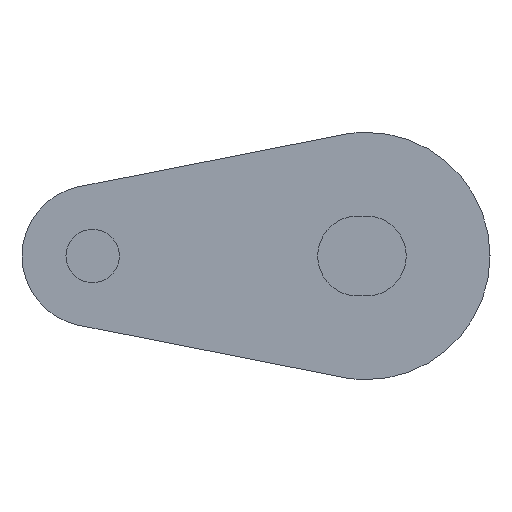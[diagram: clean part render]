
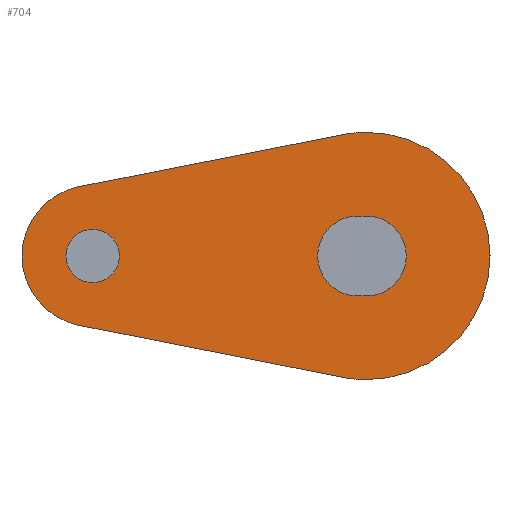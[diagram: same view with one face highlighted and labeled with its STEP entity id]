
A CAD part, left-side view. The second image highlights one B-rep face of the part: STEP entity #704.
In plain terms, the highlighted planar face has unit normal (-1, 0, 0).
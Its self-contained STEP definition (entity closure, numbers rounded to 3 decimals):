
#18 = PLANE ( 'NONE',  #150 ) ;
#21 = CARTESIAN_POINT ( 'NONE',  ( -154.5, 15.5, 0. ) ) ;
#31 = DIRECTION ( 'NONE',  ( -1., 0., 0. ) ) ;
#32 = DIRECTION ( 'NONE',  ( 0., 0., -1. ) ) ;
#44 = AXIS2_PLACEMENT_3D ( 'NONE', #236, #260, #259 ) ;
#52 = AXIS2_PLACEMENT_3D ( 'NONE', #567, #287, #289 ) ;
#66 = EDGE_CURVE ( 'NONE', #944, #945, #398, .T. ) ;
#71 = EDGE_CURVE ( 'NONE', #993, #982, #396, .T. ) ;
#105 = AXIS2_PLACEMENT_3D ( 'NONE', #288, #791, #790 ) ;
#107 = AXIS2_PLACEMENT_3D ( 'NONE', #851, #800, #801 ) ;
#116 = AXIS2_PLACEMENT_3D ( 'NONE', #1012, #1015, #995 ) ;
#124 = EDGE_CURVE ( 'NONE', #974, #977, #370, .T. ) ;
#128 = EDGE_CURVE ( 'NONE', #941, #974, #367, .T. ) ;
#130 = EDGE_CURVE ( 'NONE', #942, #943, #361, .T. ) ;
#139 = EDGE_CURVE ( 'NONE', #943, #944, #352, .T. ) ;
#144 = EDGE_CURVE ( 'NONE', #945, #942, #348, .T. ) ;
#146 = EDGE_CURVE ( 'NONE', #992, #976, #341, .T. ) ;
#149 = EDGE_CURVE ( 'NONE', #978, #993, #337, .T. ) ;
#150 = AXIS2_PLACEMENT_3D ( 'NONE', #21, #31, #32 ) ;
#170 = AXIS2_PLACEMENT_3D ( 'NONE', #813, #802, #852 ) ;
#180 = AXIS2_PLACEMENT_3D ( 'NONE', #261, #254, #253 ) ;
#183 = EDGE_CURVE ( 'NONE', #982, #941, #309, .T. ) ;
#194 = AXIS2_PLACEMENT_3D ( 'NONE', #1004, #1030, #1008 ) ;
#196 = EDGE_CURVE ( 'NONE', #976, #992, #298, .T. ) ;
#201 = EDGE_CURVE ( 'NONE', #977, #978, #312, .T. ) ;
#202 = CARTESIAN_POINT ( 'NONE',  ( -154.5, 0.5, -2.26 ) ) ;
#203 = CARTESIAN_POINT ( 'NONE',  ( -154.5, 0., 2.26 ) ) ;
#204 = CARTESIAN_POINT ( 'NONE',  ( -154.5, 0., -2.26 ) ) ;
#215 = CARTESIAN_POINT ( 'NONE',  ( -154.5, 1.355, -6.868 ) ) ;
#236 = CARTESIAN_POINT ( 'NONE',  ( -154.5, 15.5, 0. ) ) ;
#253 = DIRECTION ( 'NONE',  ( 0., 0., -1. ) ) ;
#254 = DIRECTION ( 'NONE',  ( 1., 0., 0. ) ) ;
#259 = DIRECTION ( 'NONE',  ( 0., 0., -1. ) ) ;
#260 = DIRECTION ( 'NONE',  ( 1., 0., 0. ) ) ;
#261 = CARTESIAN_POINT ( 'NONE',  ( -154.5, 0., 0. ) ) ;
#287 = DIRECTION ( 'NONE',  ( 1., 0., 0. ) ) ;
#288 = CARTESIAN_POINT ( 'NONE',  ( -154.5, 15.5, 0. ) ) ;
#289 = DIRECTION ( 'NONE',  ( 0., 0., -1. ) ) ;
#290 = FACE_BOUND ( 'NONE', #619, .T. ) ;
#298 = CIRCLE ( 'NONE', #105, 1.51 ) ;
#299 = FACE_BOUND ( 'NONE', #551, .T. ) ;
#301 = VECTOR ( 'NONE', #783, 1000. ) ;
#309 = CIRCLE ( 'NONE', #52, 7. ) ;
#312 = LINE ( 'NONE', #792, #301 ) ;
#337 = CIRCLE ( 'NONE', #180, 7. ) ;
#341 = CIRCLE ( 'NONE', #44, 1.51 ) ;
#346 = VECTOR ( 'NONE', #808, 1000. ) ;
#348 = LINE ( 'NONE', #856, #346 ) ;
#352 = LINE ( 'NONE', #810, #355 ) ;
#355 = VECTOR ( 'NONE', #857, 1000. ) ;
#361 = CIRCLE ( 'NONE', #107, 2.26 ) ;
#366 = VECTOR ( 'NONE', #834, 1000. ) ;
#367 = LINE ( 'NONE', #835, #366 ) ;
#370 = CIRCLE ( 'NONE', #170, 4. ) ;
#396 = CIRCLE ( 'NONE', #116, 7. ) ;
#398 = CIRCLE ( 'NONE', #194, 2.26 ) ;
#464 = ORIENTED_EDGE ( 'NONE', *, *, #130, .T. ) ;
#465 = ORIENTED_EDGE ( 'NONE', *, *, #139, .T. ) ;
#466 = ORIENTED_EDGE ( 'NONE', *, *, #66, .T. ) ;
#494 = FACE_OUTER_BOUND ( 'NONE', #682, .T. ) ;
#551 = EDGE_LOOP ( 'NONE', ( #464, #465, #466, #616 ) ) ;
#567 = CARTESIAN_POINT ( 'NONE',  ( -154.5, 0., 0. ) ) ;
#616 = ORIENTED_EDGE ( 'NONE', *, *, #144, .T. ) ;
#619 = EDGE_LOOP ( 'NONE', ( #639, #662 ) ) ;
#639 = ORIENTED_EDGE ( 'NONE', *, *, #146, .T. ) ;
#659 = ORIENTED_EDGE ( 'NONE', *, *, #183, .F. ) ;
#660 = ORIENTED_EDGE ( 'NONE', *, *, #71, .F. ) ;
#661 = ORIENTED_EDGE ( 'NONE', *, *, #149, .F. ) ;
#662 = ORIENTED_EDGE ( 'NONE', *, *, #196, .T. ) ;
#663 = ORIENTED_EDGE ( 'NONE', *, *, #124, .F. ) ;
#664 = ORIENTED_EDGE ( 'NONE', *, *, #128, .F. ) ;
#678 = ORIENTED_EDGE ( 'NONE', *, *, #201, .F. ) ;
#682 = EDGE_LOOP ( 'NONE', ( #663, #664, #659, #660, #661, #678 ) ) ;
#704 = ADVANCED_FACE ( 'NONE', ( #299, #290, #494 ), #18, .T. ) ;
#783 = DIRECTION ( 'NONE',  ( 0., -0.981, 0.194 ) ) ;
#790 = DIRECTION ( 'NONE',  ( 0., 0., -1. ) ) ;
#791 = DIRECTION ( 'NONE',  ( 1., 0., 0. ) ) ;
#792 = CARTESIAN_POINT ( 'NONE',  ( -154.5, 16.274, 3.924 ) ) ;
#800 = DIRECTION ( 'NONE',  ( 1., 0., 0. ) ) ;
#801 = DIRECTION ( 'NONE',  ( 0., 0., -1. ) ) ;
#802 = DIRECTION ( 'NONE',  ( 1., 0., 0. ) ) ;
#808 = DIRECTION ( 'NONE',  ( 0., 1., 0. ) ) ;
#810 = CARTESIAN_POINT ( 'NONE',  ( -154.5, 0.5, 2.26 ) ) ;
#813 = CARTESIAN_POINT ( 'NONE',  ( -154.5, 15.5, 0. ) ) ;
#834 = DIRECTION ( 'NONE',  ( 0., 0.981, 0.194 ) ) ;
#835 = CARTESIAN_POINT ( 'NONE',  ( -154.5, 1.355, -6.868 ) ) ;
#851 = CARTESIAN_POINT ( 'NONE',  ( -154.5, 0.5, 0. ) ) ;
#852 = DIRECTION ( 'NONE',  ( 0., 0., -1. ) ) ;
#856 = CARTESIAN_POINT ( 'NONE',  ( -154.5, 0.5, -2.26 ) ) ;
#857 = DIRECTION ( 'NONE',  ( 0., -1., 0. ) ) ;
#874 = CARTESIAN_POINT ( 'NONE',  ( -154.5, 16.274, -3.924 ) ) ;
#923 = CARTESIAN_POINT ( 'NONE',  ( -154.5, 15.5, -1.51 ) ) ;
#924 = CARTESIAN_POINT ( 'NONE',  ( -154.5, 0., 7. ) ) ;
#930 = CARTESIAN_POINT ( 'NONE',  ( -154.5, 0., -7. ) ) ;
#941 = VERTEX_POINT ( 'NONE', #215 ) ;
#942 = VERTEX_POINT ( 'NONE', #202 ) ;
#943 = VERTEX_POINT ( 'NONE', #1048 ) ;
#944 = VERTEX_POINT ( 'NONE', #203 ) ;
#945 = VERTEX_POINT ( 'NONE', #204 ) ;
#974 = VERTEX_POINT ( 'NONE', #874 ) ;
#976 = VERTEX_POINT ( 'NONE', #1037 ) ;
#977 = VERTEX_POINT ( 'NONE', #1038 ) ;
#978 = VERTEX_POINT ( 'NONE', #1035 ) ;
#982 = VERTEX_POINT ( 'NONE', #930 ) ;
#992 = VERTEX_POINT ( 'NONE', #923 ) ;
#993 = VERTEX_POINT ( 'NONE', #924 ) ;
#995 = DIRECTION ( 'NONE',  ( 0., 0., -1. ) ) ;
#1004 = CARTESIAN_POINT ( 'NONE',  ( -154.5, 0., 0. ) ) ;
#1008 = DIRECTION ( 'NONE',  ( 0., 0., -1. ) ) ;
#1012 = CARTESIAN_POINT ( 'NONE',  ( -154.5, 0., 0. ) ) ;
#1015 = DIRECTION ( 'NONE',  ( 1., 0., 0. ) ) ;
#1030 = DIRECTION ( 'NONE',  ( 1., 0., 0. ) ) ;
#1035 = CARTESIAN_POINT ( 'NONE',  ( -154.5, 1.355, 6.868 ) ) ;
#1037 = CARTESIAN_POINT ( 'NONE',  ( -154.5, 15.5, 1.51 ) ) ;
#1038 = CARTESIAN_POINT ( 'NONE',  ( -154.5, 16.274, 3.924 ) ) ;
#1048 = CARTESIAN_POINT ( 'NONE',  ( -154.5, 0.5, 2.26 ) ) ;
